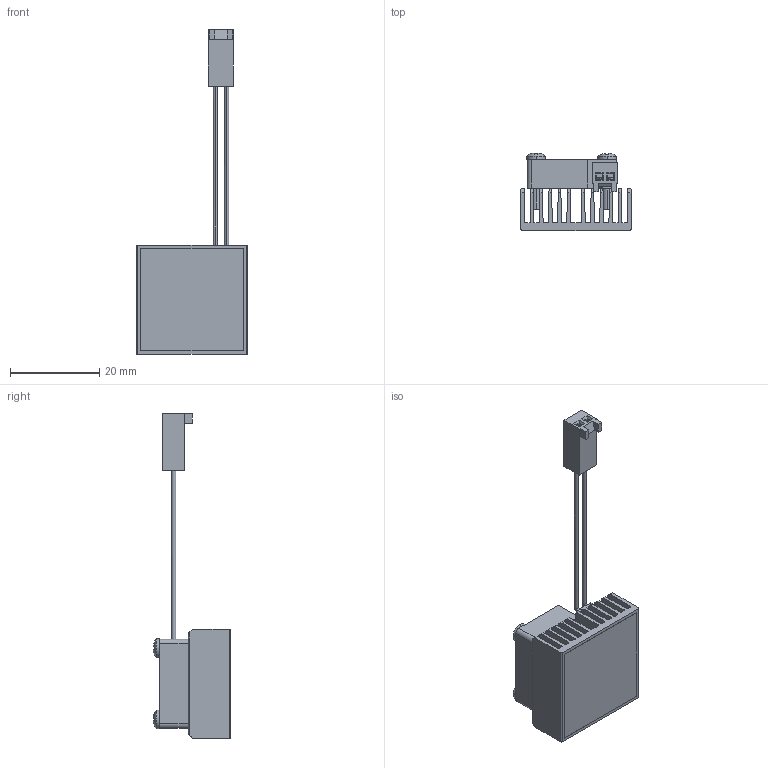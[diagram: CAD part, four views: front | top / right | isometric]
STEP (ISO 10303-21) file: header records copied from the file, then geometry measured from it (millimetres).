
FILE_DESCRIPTION (( 'STEP AP214' ), '1' );
FILE_NAME ('FI25-1.7.STEP', '2023-03-21T23:29:25', ( '' ), ( '' ), 'SwSTEP 2.0', 'SolidWorks 2020', '' );
FILE_SCHEMA (( 'AUTOMOTIVE_DESIGN' ));
Length unit declared in the file: millimetre
Products named in the file (1): FI25-1.7
Bounding box: 24.8 x 17.48 x 72.95 mm (x, y, z)
Volume: 4686.8 mm3; surface area: 10384.4 mm2
Topology: 6 solids, 6 shells, 366 faces, 1006 edges, 647 vertices
Faces by surface type: plane 199, cylinder 116, bspline 48, sphere 3
Entity records: 17224 total; most frequent: CARTESIAN_POINT 4287, ORIENTED_EDGE 1962, DIRECTION 1639, EDGE_CURVE 981, VERTEX_POINT 644, VECTOR 615, LINE 615, AXIS2_PLACEMENT_3D 512
